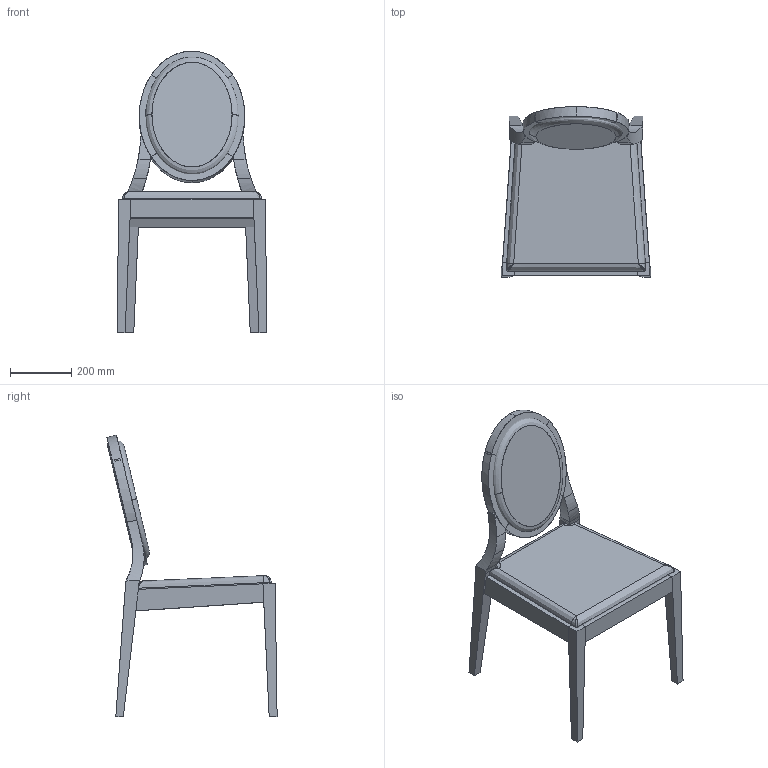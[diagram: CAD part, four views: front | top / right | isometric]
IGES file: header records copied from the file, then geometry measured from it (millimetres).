
Start section: SolidWorks IGES file using analytic representation for surfaces
Global section: file name: C:\Users\Adao\Documents\Trab Adao\Desenho técnico PRODUÇÃO\J M S\GIOCONDA\Gioconda Monalisa 3D\Cadeira MONALISA M-445.IGS; native system: SolidWorks 2012; preprocessor: SolidWorks 2012; author: Adao; date: 121219.134534; units: millimetre
Bounding box: 490.07 x 556.91 x 921.81 mm (x, y, z)
Surface area: 2045158 mm2 (no closed solid volume)
Topology: 0 solids, 0 shells, 310 faces, 2591 edges, 2583 vertices
Faces by surface type: bspline 270, revolution 40
